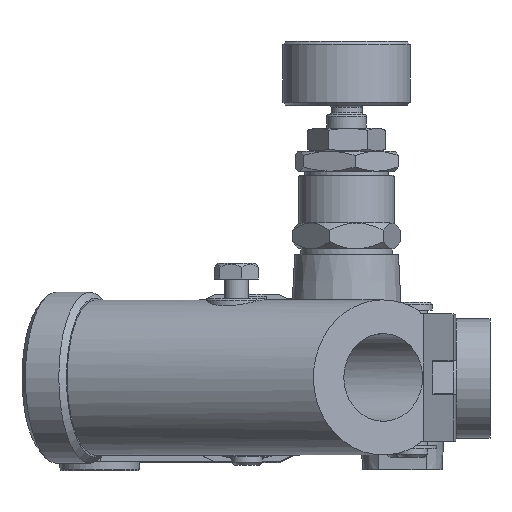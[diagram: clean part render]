
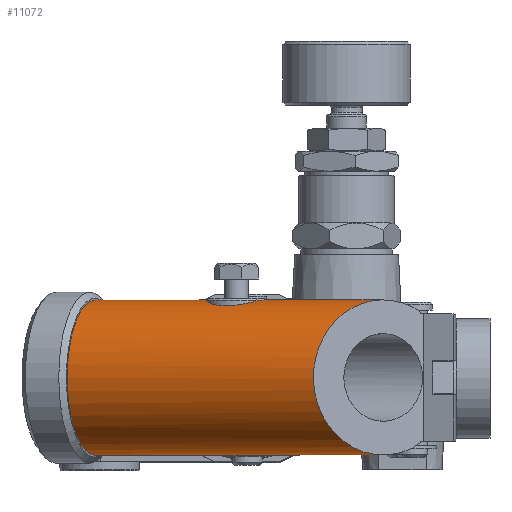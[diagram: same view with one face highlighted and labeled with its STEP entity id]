
A CAD part, top view. The second image highlights one B-rep face of the part: STEP entity #11072.
In plain terms, the highlighted cylindrical face has radius 19.48 mm (diameter 38.961 mm), a partial arc.
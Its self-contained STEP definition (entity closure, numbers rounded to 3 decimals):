
#48=ELLIPSE('',#12093,20.731,19.481);
#49=ELLIPSE('',#12098,20.731,19.481);
#50=ELLIPSE('',#12101,20.731,19.481);
#51=ELLIPSE('',#12104,22.494,19.481);
#52=ELLIPSE('',#12107,20.731,19.481);
#449=LINE('',#19091,#844);
#450=LINE('',#19092,#845);
#454=LINE('',#19102,#849);
#455=LINE('',#19104,#850);
#457=LINE('',#19110,#852);
#458=LINE('',#19114,#853);
#461=LINE('',#19122,#856);
#844=VECTOR('',#14488,1000.);
#845=VECTOR('',#14489,1000.);
#849=VECTOR('',#14499,1000.);
#850=VECTOR('',#14500,1000.);
#852=VECTOR('',#14508,1000.);
#853=VECTOR('',#14515,1000.);
#856=VECTOR('',#14524,1000.);
#1155=CYLINDRICAL_SURFACE('',#12111,19.481);
#1294=B_SPLINE_CURVE_WITH_KNOTS('',3,(#19124,#19125,#19126,#19127,#19128,
#19129),.UNSPECIFIED.,.F.,.F.,(4,1,1,4),(0.039,0.043,
0.045,0.047),.UNSPECIFIED.);
#1295=B_SPLINE_CURVE_WITH_KNOTS('',3,(#19131,#19132,#19133,#19134,#19135),
 .UNSPECIFIED.,.F.,.F.,(4,1,4),(0.,0.004,0.009),
 .UNSPECIFIED.);
#1296=B_SPLINE_CURVE_WITH_KNOTS('',3,(#19139,#19140,#19141,#19142,#19143),
 .UNSPECIFIED.,.F.,.F.,(4,1,4),(0.032,0.035,0.039),
 .UNSPECIFIED.);
#1297=B_SPLINE_CURVE_WITH_KNOTS('',3,(#19145,#19146,#19147,#19148,#19149,
#19150,#19151),.UNSPECIFIED.,.F.,.F.,(4,1,1,1,4),(0.015,0.019,
0.024,0.028,0.032),.UNSPECIFIED.);
#1298=B_SPLINE_CURVE_WITH_KNOTS('',3,(#19153,#19154,#19155,#19156,#19157),
 .UNSPECIFIED.,.F.,.F.,(4,1,4),(0.009,0.012,
0.015),.UNSPECIFIED.);
#3304=ORIENTED_EDGE('',*,*,#4400,.F.);
#3305=ORIENTED_EDGE('',*,*,#4399,.T.);
#3306=ORIENTED_EDGE('',*,*,#4396,.T.);
#3307=ORIENTED_EDGE('',*,*,#4395,.T.);
#3308=ORIENTED_EDGE('',*,*,#4394,.F.);
#3309=ORIENTED_EDGE('',*,*,#4392,.T.);
#3310=ORIENTED_EDGE('',*,*,#4391,.F.);
#3311=ORIENTED_EDGE('',*,*,#4401,.F.);
#3312=ORIENTED_EDGE('',*,*,#4404,.F.);
#3313=ORIENTED_EDGE('',*,*,#4405,.F.);
#3314=ORIENTED_EDGE('',*,*,#4406,.F.);
#3315=ORIENTED_EDGE('',*,*,#4402,.F.);
#3316=ORIENTED_EDGE('',*,*,#4390,.F.);
#3317=ORIENTED_EDGE('',*,*,#4388,.F.);
#3318=ORIENTED_EDGE('',*,*,#4385,.T.);
#3319=ORIENTED_EDGE('',*,*,#4382,.T.);
#3320=ORIENTED_EDGE('',*,*,#4384,.T.);
#3321=ORIENTED_EDGE('',*,*,#4380,.F.);
#4380=EDGE_CURVE('',#5160,#5161,#48,.T.);
#4382=EDGE_CURVE('',#5162,#5163,#5653,.T.);
#4384=EDGE_CURVE('',#5163,#5161,#449,.F.);
#4385=EDGE_CURVE('',#5164,#5162,#450,.T.);
#4388=EDGE_CURVE('',#5164,#5165,#49,.T.);
#4390=EDGE_CURVE('',#5165,#5167,#454,.F.);
#4391=EDGE_CURVE('',#5167,#5166,#455,.F.);
#4392=EDGE_CURVE('',#5168,#5166,#50,.T.);
#4394=EDGE_CURVE('',#5168,#5141,#457,.F.);
#4395=EDGE_CURVE('',#5142,#5141,#51,.T.);
#4396=EDGE_CURVE('',#5169,#5142,#458,.F.);
#4399=EDGE_CURVE('',#5170,#5169,#52,.T.);
#4400=EDGE_CURVE('',#5170,#5160,#461,.T.);
#4401=EDGE_CURVE('',#5171,#5167,#1294,.T.);
#4402=EDGE_CURVE('',#5167,#5172,#1295,.T.);
#4404=EDGE_CURVE('',#5173,#5171,#1296,.T.);
#4405=EDGE_CURVE('',#5174,#5173,#1297,.T.);
#4406=EDGE_CURVE('',#5172,#5174,#1298,.T.);
#5141=VERTEX_POINT('',#19022);
#5142=VERTEX_POINT('',#19024);
#5160=VERTEX_POINT('',#19081);
#5161=VERTEX_POINT('',#19083);
#5162=VERTEX_POINT('',#19087);
#5163=VERTEX_POINT('',#19088);
#5164=VERTEX_POINT('',#19093);
#5165=VERTEX_POINT('',#19097);
#5166=VERTEX_POINT('',#19101);
#5167=VERTEX_POINT('',#19103);
#5168=VERTEX_POINT('',#19107);
#5169=VERTEX_POINT('',#19115);
#5170=VERTEX_POINT('',#19119);
#5171=VERTEX_POINT('',#19130);
#5172=VERTEX_POINT('',#19136);
#5173=VERTEX_POINT('',#19144);
#5174=VERTEX_POINT('',#19152);
#5653=CIRCLE('',#12095,19.481);
#6472=EDGE_LOOP('',(#3304,#3305,#3306,#3307,#3308,#3309,#3310,#3311,#3312,
#3313,#3314,#3315,#3316,#3317,#3318,#3319,#3320,#3321));
#7306=FACE_BOUND('',#6472,.T.);
#11072=ADVANCED_FACE('',(#7306),#1155,.T.);
#12093=AXIS2_PLACEMENT_3D('',#19082,#14478,#14479);
#12095=AXIS2_PLACEMENT_3D('',#19086,#14483,#14484);
#12098=AXIS2_PLACEMENT_3D('',#19098,#14494,#14495);
#12101=AXIS2_PLACEMENT_3D('',#19106,#14503,#14504);
#12104=AXIS2_PLACEMENT_3D('',#19112,#14511,#14512);
#12107=AXIS2_PLACEMENT_3D('',#19120,#14520,#14521);
#12111=AXIS2_PLACEMENT_3D('',#19138,#14529,#14530);
#14478=DIRECTION('',(0.753,0.,0.658));
#14479=DIRECTION('',(-0.658,0.,0.753));
#14483=DIRECTION('',(0.933,0.,0.361));
#14484=DIRECTION('',(-0.361,0.,0.933));
#14488=DIRECTION('',(-0.933,0.,-0.361));
#14489=DIRECTION('',(-0.933,0.,-0.361));
#14494=DIRECTION('',(0.753,0.,0.658));
#14495=DIRECTION('',(-0.658,0.,0.753));
#14499=DIRECTION('',(-0.933,0.,-0.361));
#14500=DIRECTION('',(-0.933,0.,-0.361));
#14503=DIRECTION('',(1.,0.,0.02));
#14504=DIRECTION('',(0.02,0.,-1.));
#14508=DIRECTION('',(-0.933,0.,-0.361));
#14511=DIRECTION('',(-0.628,0.,-0.779));
#14512=DIRECTION('',(-0.779,0.,0.628));
#14515=DIRECTION('',(-0.933,0.,-0.361));
#14520=DIRECTION('',(1.,0.,0.02));
#14521=DIRECTION('',(0.02,0.,-1.));
#14524=DIRECTION('',(-0.933,0.,-0.361));
#14529=DIRECTION('',(-0.933,0.,-0.361));
#14530=DIRECTION('',(0.361,0.,-0.933));
#19022=CARTESIAN_POINT('',(44.208,15.984,219.343));
#19024=CARTESIAN_POINT('',(44.208,-15.984,219.343));
#19081=CARTESIAN_POINT('',(-34.329,-17.982,192.894));
#19082=CARTESIAN_POINT('',(-39.574,0.,198.899));
#19083=CARTESIAN_POINT('',(-26.987,-7.492,184.486));
#19086=CARTESIAN_POINT('',(-38.08,0.,199.477));
#19087=CARTESIAN_POINT('',(-31.597,7.493,182.704));
#19088=CARTESIAN_POINT('',(-31.597,-7.492,182.704));
#19091=CARTESIAN_POINT('',(46.676,-7.492,212.957));
#19092=CARTESIAN_POINT('',(46.676,7.493,212.957));
#19093=CARTESIAN_POINT('',(-26.987,7.493,184.486));
#19097=CARTESIAN_POINT('',(-34.329,17.982,192.894));
#19098=CARTESIAN_POINT('',(-39.574,0.,198.899));
#19101=CARTESIAN_POINT('',(13.431,17.982,211.353));
#19102=CARTESIAN_POINT('',(42.894,17.982,222.741));
#19103=CARTESIAN_POINT('',(0.031,17.982,206.174));
#19104=CARTESIAN_POINT('',(42.894,17.982,222.741));
#19106=CARTESIAN_POINT('',(13.273,0.,219.325));
#19107=CARTESIAN_POINT('',(13.508,15.984,207.477));
#19110=CARTESIAN_POINT('',(44.208,15.984,219.343));
#19112=CARTESIAN_POINT('',(34.197,0.,227.412));
#19114=CARTESIAN_POINT('',(44.208,-15.984,219.343));
#19115=CARTESIAN_POINT('',(13.508,-15.984,207.477));
#19119=CARTESIAN_POINT('',(13.431,-17.982,211.353));
#19120=CARTESIAN_POINT('',(13.273,0.,219.325));
#19122=CARTESIAN_POINT('',(42.894,-17.982,222.741));
#19124=CARTESIAN_POINT('',(4.809,19.231,212.72));
#19125=CARTESIAN_POINT('',(4.725,19.021,211.295));
#19126=CARTESIAN_POINT('',(3.98,18.538,209.217));
#19127=CARTESIAN_POINT('',(1.961,18.071,207.144));
#19128=CARTESIAN_POINT('',(0.711,17.982,206.437));
#19129=CARTESIAN_POINT('',(0.031,17.982,206.174));
#19130=CARTESIAN_POINT('',(4.809,19.231,212.72));
#19131=CARTESIAN_POINT('',(0.031,17.982,206.174));
#19132=CARTESIAN_POINT('',(-1.33,17.982,205.648));
#19133=CARTESIAN_POINT('',(-4.285,18.372,205.425));
#19134=CARTESIAN_POINT('',(-6.892,19.022,206.812));
#19135=CARTESIAN_POINT('',(-7.908,19.231,207.805));
#19136=CARTESIAN_POINT('',(-7.908,19.231,207.805));
#19138=CARTESIAN_POINT('',(40.193,0.,229.729));
#19139=CARTESIAN_POINT('',(2.567,19.231,218.52));
#19140=CARTESIAN_POINT('',(3.331,19.388,217.773));
#19141=CARTESIAN_POINT('',(4.535,19.574,215.952));
#19142=CARTESIAN_POINT('',(4.872,19.387,213.778));
#19143=CARTESIAN_POINT('',(4.809,19.231,212.72));
#19144=CARTESIAN_POINT('',(2.567,19.231,218.52));
#19145=CARTESIAN_POINT('',(-10.15,19.231,213.605));
#19146=CARTESIAN_POINT('',(-10.065,19.02,215.039));
#19147=CARTESIAN_POINT('',(-9.082,18.374,217.786));
#19148=CARTESIAN_POINT('',(-5.534,17.786,220.553));
#19149=CARTESIAN_POINT('',(-1.036,18.373,220.898));
#19150=CARTESIAN_POINT('',(1.539,19.019,219.526));
#19151=CARTESIAN_POINT('',(2.567,19.231,218.52));
#19152=CARTESIAN_POINT('',(-10.15,19.231,213.605));
#19153=CARTESIAN_POINT('',(-7.908,19.231,207.805));
#19154=CARTESIAN_POINT('',(-8.662,19.386,208.542));
#19155=CARTESIAN_POINT('',(-9.877,19.574,210.372));
#19156=CARTESIAN_POINT('',(-10.213,19.388,212.54));
#19157=CARTESIAN_POINT('',(-10.15,19.231,213.605));
